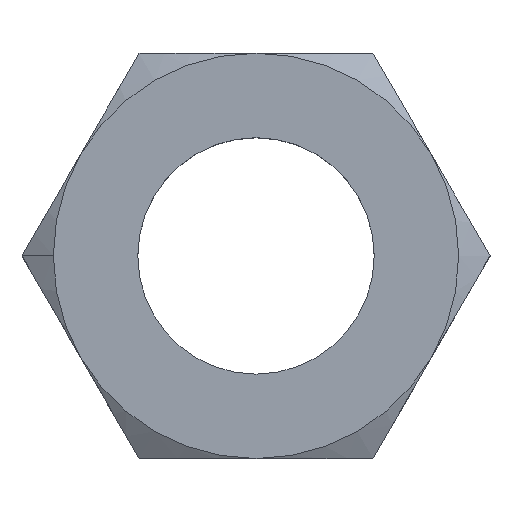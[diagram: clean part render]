
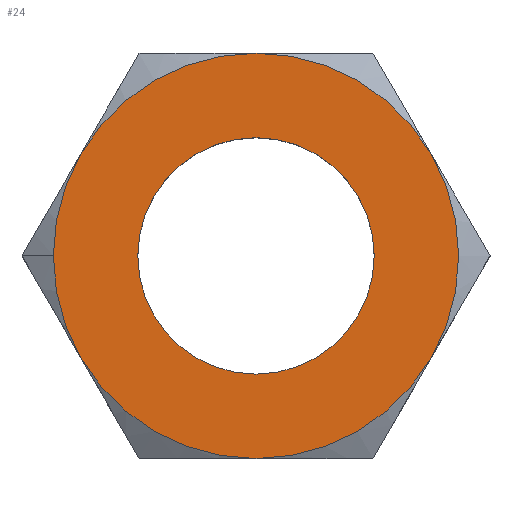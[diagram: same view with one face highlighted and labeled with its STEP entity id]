
A CAD part, top view. The second image highlights one B-rep face of the part: STEP entity #24.
In plain terms, the highlighted planar face has unit normal (0, 0, 1).
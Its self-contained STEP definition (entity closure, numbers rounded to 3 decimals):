
#2 = VERTEX_POINT ( 'NONE', #220 ) ;
#24 = ADVANCED_FACE ( 'NONE', ( #338, #310 ), #337, .T. ) ;
#25 = EDGE_LOOP ( 'NONE', ( #26, #127, #128, #151, #130, #140, #143 ) ) ;
#26 = ORIENTED_EDGE ( 'NONE', *, *, #27, .F. ) ;
#27 = EDGE_CURVE ( 'NONE', #87, #66, #343, .T. ) ;
#37 = VERTEX_POINT ( 'NONE', #323 ) ;
#66 = VERTEX_POINT ( 'NONE', #419 ) ;
#77 = VERTEX_POINT ( 'NONE', #394 ) ;
#87 = VERTEX_POINT ( 'NONE', #503 ) ;
#90 = EDGE_CURVE ( 'NONE', #2, #87, #416, .T. ) ;
#104 = EDGE_CURVE ( 'NONE', #268, #37, #592, .T. ) ;
#107 = EDGE_CURVE ( 'NONE', #37, #77, #536, .T. ) ;
#109 = EDGE_CURVE ( 'NONE', #235, #256, #586, .T. ) ;
#110 = ORIENTED_EDGE ( 'NONE', *, *, #109, .F. ) ;
#112 = EDGE_CURVE ( 'NONE', #77, #2, #525, .T. ) ;
#127 = ORIENTED_EDGE ( 'NONE', *, *, #90, .F. ) ;
#128 = ORIENTED_EDGE ( 'NONE', *, *, #112, .F. ) ;
#130 = ORIENTED_EDGE ( 'NONE', *, *, #104, .F. ) ;
#131 = ORIENTED_EDGE ( 'NONE', *, *, #234, .F. ) ;
#140 = ORIENTED_EDGE ( 'NONE', *, *, #179, .F. ) ;
#143 = ORIENTED_EDGE ( 'NONE', *, *, #150, .F. ) ;
#150 = EDGE_CURVE ( 'NONE', #66, #295, #621, .T. ) ;
#151 = ORIENTED_EDGE ( 'NONE', *, *, #107, .F. ) ;
#155 = EDGE_LOOP ( 'NONE', ( #110, #131 ) ) ;
#179 = EDGE_CURVE ( 'NONE', #295, #268, #682, .T. ) ;
#220 = CARTESIAN_POINT ( 'NONE',  ( 10.392, 6., 8. ) ) ;
#234 = EDGE_CURVE ( 'NONE', #256, #235, #663, .T. ) ;
#235 = VERTEX_POINT ( 'NONE', #658 ) ;
#256 = VERTEX_POINT ( 'NONE', #727 ) ;
#268 = VERTEX_POINT ( 'NONE', #745 ) ;
#295 = VERTEX_POINT ( 'NONE', #749 ) ;
#297 = AXIS2_PLACEMENT_3D ( 'NONE', #309, #339, #344 ) ;
#298 = DIRECTION ( 'NONE',  ( 1., 0., 0. ) ) ;
#299 = DIRECTION ( 'NONE',  ( 0., 0., -1. ) ) ;
#300 = CARTESIAN_POINT ( 'NONE',  ( 0., 0., 8. ) ) ;
#301 = AXIS2_PLACEMENT_3D ( 'NONE', #300, #299, #298 ) ;
#309 = CARTESIAN_POINT ( 'NONE',  ( 6.928, -12., 8. ) ) ;
#310 = FACE_BOUND ( 'NONE', #155, .T. ) ;
#323 = CARTESIAN_POINT ( 'NONE',  ( -10.392, 6., 8. ) ) ;
#337 = PLANE ( 'NONE',  #297 ) ;
#338 = FACE_OUTER_BOUND ( 'NONE', #25, .T. ) ;
#339 = DIRECTION ( 'NONE',  ( 0., 0., 1. ) ) ;
#343 = CIRCLE ( 'NONE', #301, 12. ) ;
#344 = DIRECTION ( 'NONE',  ( 1., 0., 0. ) ) ;
#394 = CARTESIAN_POINT ( 'NONE',  ( 0., 12., 8. ) ) ;
#416 = CIRCLE ( 'NONE', #437, 12. ) ;
#419 = CARTESIAN_POINT ( 'NONE',  ( 0., -12., 8. ) ) ;
#437 = AXIS2_PLACEMENT_3D ( 'NONE', #469, #468, #467 ) ;
#467 = DIRECTION ( 'NONE',  ( 1., 0., 0. ) ) ;
#468 = DIRECTION ( 'NONE',  ( 0., 0., -1. ) ) ;
#469 = CARTESIAN_POINT ( 'NONE',  ( 0., 0., 8. ) ) ;
#503 = CARTESIAN_POINT ( 'NONE',  ( 10.392, -6., 8. ) ) ;
#522 = DIRECTION ( 'NONE',  ( 1., 0., 0. ) ) ;
#523 = DIRECTION ( 'NONE',  ( 0., 0., -1. ) ) ;
#524 = AXIS2_PLACEMENT_3D ( 'NONE', #582, #523, #522 ) ;
#525 = CIRCLE ( 'NONE', #524, 12. ) ;
#531 = DIRECTION ( 'NONE',  ( -1., 0., 0. ) ) ;
#532 = DIRECTION ( 'NONE',  ( 0., 0., -1. ) ) ;
#533 = AXIS2_PLACEMENT_3D ( 'NONE', #538, #532, #531 ) ;
#534 = CARTESIAN_POINT ( 'NONE',  ( 0., 0., 8. ) ) ;
#536 = CIRCLE ( 'NONE', #533, 12. ) ;
#538 = CARTESIAN_POINT ( 'NONE',  ( 0., 0., 8. ) ) ;
#553 = CARTESIAN_POINT ( 'NONE',  ( 0., 0., 8. ) ) ;
#577 = DIRECTION ( 'NONE',  ( 1., 0., 0. ) ) ;
#578 = DIRECTION ( 'NONE',  ( 0., 0., -1. ) ) ;
#579 = AXIS2_PLACEMENT_3D ( 'NONE', #553, #578, #577 ) ;
#582 = CARTESIAN_POINT ( 'NONE',  ( 0., 0., 8. ) ) ;
#583 = DIRECTION ( 'NONE',  ( 1., 0., 0. ) ) ;
#584 = DIRECTION ( 'NONE',  ( 0., 0., 1. ) ) ;
#585 = AXIS2_PLACEMENT_3D ( 'NONE', #534, #584, #583 ) ;
#586 = CIRCLE ( 'NONE', #585, 7. ) ;
#592 = CIRCLE ( 'NONE', #579, 12. ) ;
#617 = DIRECTION ( 'NONE',  ( 1., 0., 0. ) ) ;
#618 = DIRECTION ( 'NONE',  ( 0., 0., -1. ) ) ;
#619 = CARTESIAN_POINT ( 'NONE',  ( 0., 0., 8. ) ) ;
#620 = AXIS2_PLACEMENT_3D ( 'NONE', #619, #618, #617 ) ;
#621 = CIRCLE ( 'NONE', #620, 12. ) ;
#658 = CARTESIAN_POINT ( 'NONE',  ( 7., 0., 8. ) ) ;
#659 = DIRECTION ( 'NONE',  ( 1., 0., 0. ) ) ;
#660 = DIRECTION ( 'NONE',  ( 0., 0., 1. ) ) ;
#661 = CARTESIAN_POINT ( 'NONE',  ( 0., 0., 8. ) ) ;
#662 = AXIS2_PLACEMENT_3D ( 'NONE', #661, #660, #659 ) ;
#663 = CIRCLE ( 'NONE', #662, 7. ) ;
#667 = CARTESIAN_POINT ( 'NONE',  ( 0., 0., 8. ) ) ;
#670 = DIRECTION ( 'NONE',  ( 1., 0., 0. ) ) ;
#672 = AXIS2_PLACEMENT_3D ( 'NONE', #667, #685, #670 ) ;
#682 = CIRCLE ( 'NONE', #672, 12. ) ;
#685 = DIRECTION ( 'NONE',  ( 0., 0., -1. ) ) ;
#727 = CARTESIAN_POINT ( 'NONE',  ( -7., 0., 8. ) ) ;
#745 = CARTESIAN_POINT ( 'NONE',  ( -12., 0., 8. ) ) ;
#749 = CARTESIAN_POINT ( 'NONE',  ( -10.392, -6., 8. ) ) ;
